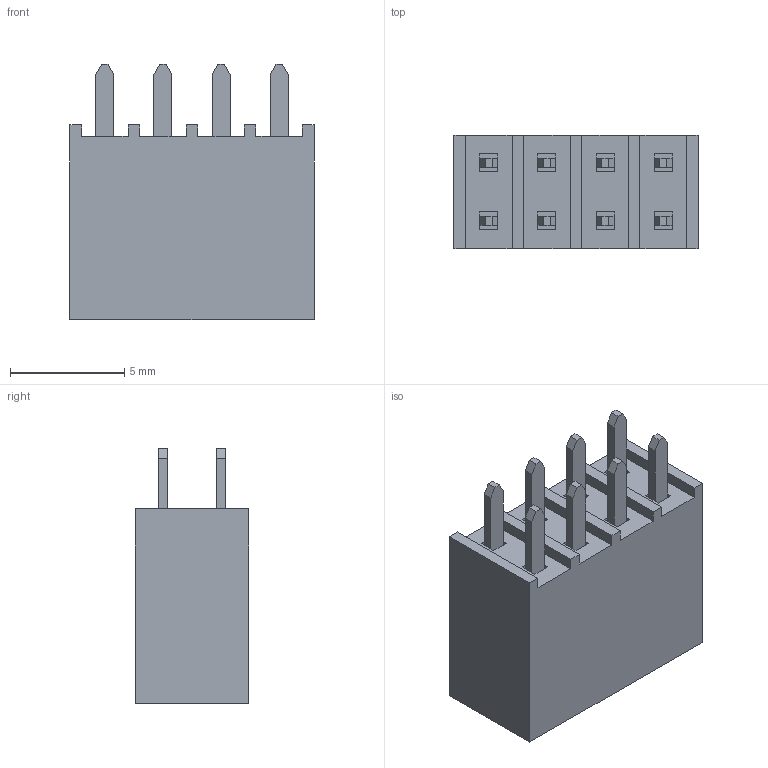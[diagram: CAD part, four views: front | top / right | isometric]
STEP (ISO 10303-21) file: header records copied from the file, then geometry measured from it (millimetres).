
FILE_DESCRIPTION(('FreeCAD Model'),'2;1');
FILE_NAME('C:\Users\cr185092\Documents\KiCAD_Projects\VORON_V2.0_Expander_option2\VORON_V2.0.pretty\3D_Models\_SSW-104-01-G-D_pin_sp.step','2017-11-19T10:12:14',('kicad StepUp'),( 'ksu MCAD'),'Open CASCADE STEP processor 6.8','FreeCAD','Unknown');
FILE_SCHEMA(('AUTOMOTIVE_DESIGN_CC2 { 1 2 10303 214 -1 1 5 4 }'));
Length unit declared in the file: millimetre
Products named in the file (1): _SSW-104-01-G-D_pin_sp
Bounding box: 10.67 x 4.95 x 11.15 mm (x, y, z)
Volume: 398.8 mm3; surface area: 641.3 mm2
Topology: 1 solids, 1 shells, 182 faces, 460 edges, 296 vertices
Faces by surface type: plane 182
Entity records: 6595 total; most frequent: CARTESIAN_POINT 939, ORIENTED_EDGE 920, DIRECTION 826, EDGE_CURVE 460, LINE 460, VECTOR 460, VERTEX_POINT 296, FACE_BOUND 198
